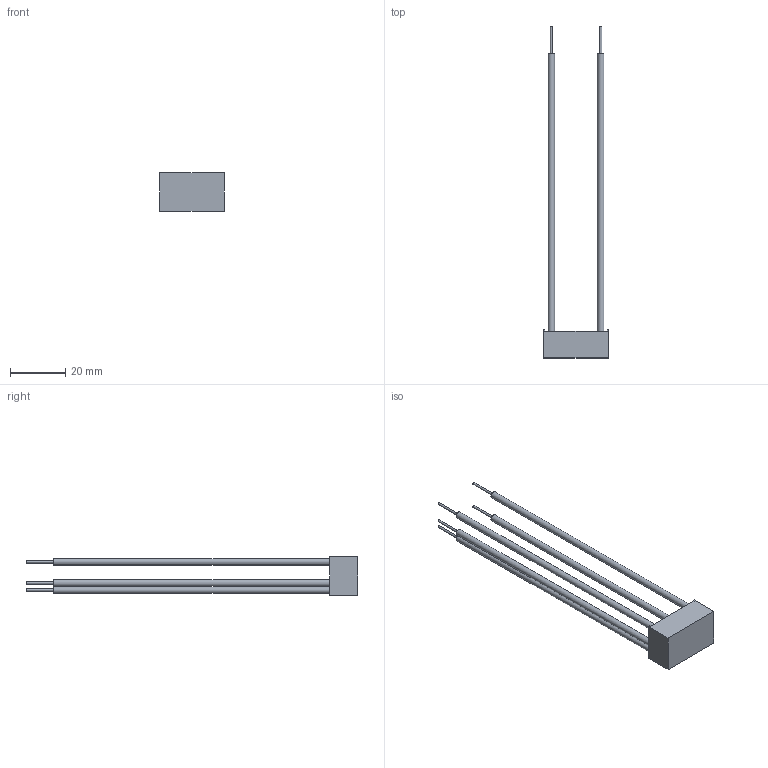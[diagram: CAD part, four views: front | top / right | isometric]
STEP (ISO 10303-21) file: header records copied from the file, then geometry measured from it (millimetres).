
FILE_DESCRIPTION(/* description */ ('Unknown'),/* implementation_level */ '2;1');
FILE_NAME(/* name */ 'LDU24(WD)',/* time_stamp */ '2017-11-30T16:26:44+08:00',/* author */ ('Unknown'),/* organization */ ('Unknown'),/* preprocessor_version */ 'ST-DEVELOPER v16.7',/* originating_system */ 'DEX',/* authorisation */ $);
FILE_SCHEMA (('AUTOMOTIVE_DESIGN {1 0 10303 214 3 1 1}'));
Length unit declared in the file: millimetre
Products named in the file (1): LDU24(WD)
Bounding box: 23.4 x 119.66 x 14 mm (x, y, z)
Volume: 5458.7 mm3; surface area: 5302.3 mm2
Topology: 1 solids, 1 shells, 30 faces, 59 edges, 41 vertices
Faces by surface type: plane 20, cylinder 10
Full cylindrical faces by diameter (mm): 0.8 x5, 2.4 x5
Entity records: 718 total; most frequent: DIRECTION 126, CARTESIAN_POINT 111, ORIENTED_EDGE 88, AXIS2_PLACEMENT_3D 51, EDGE_LOOP 50, FACE_BOUND 50, EDGE_CURVE 44, VERTEX_POINT 36
